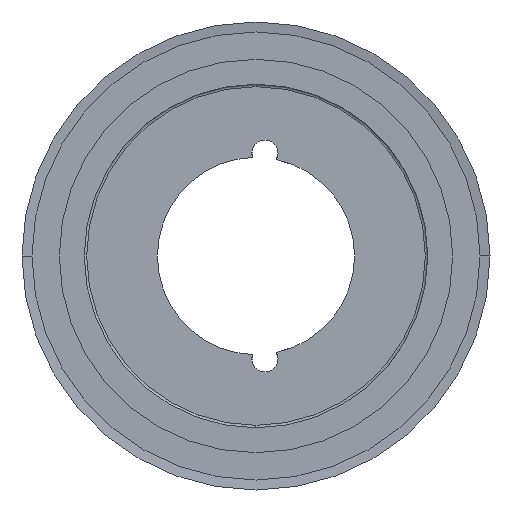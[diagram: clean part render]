
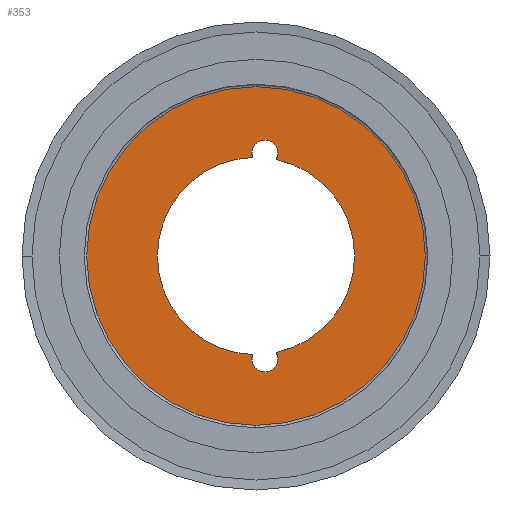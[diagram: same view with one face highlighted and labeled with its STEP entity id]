
A CAD part, left-side view. The second image highlights one B-rep face of the part: STEP entity #353.
In plain terms, the highlighted planar face has unit normal (-1, 0, 0).
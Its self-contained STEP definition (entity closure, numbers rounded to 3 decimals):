
#353 = ADVANCED_FACE( '', ( #922, #923 ), #924, .T. );
#922 = FACE_BOUND( '', #1502, .T. );
#923 = FACE_OUTER_BOUND( '', #1503, .T. );
#924 = PLANE( '', #1504 );
#1502 = EDGE_LOOP( '', ( #3959, #3960, #3961, #3962, #3963, #3964, #3965, #3966, #3967, #3968 ) );
#1503 = EDGE_LOOP( '', ( #3969, #3970, #3971 ) );
#1504 = AXIS2_PLACEMENT_3D( '', #3972, #3973, #3974 );
#3959 = ORIENTED_EDGE( '', *, *, #4113, .T. );
#3960 = ORIENTED_EDGE( '', *, *, #4112, .T. );
#3961 = ORIENTED_EDGE( '', *, *, #4107, .T. );
#3962 = ORIENTED_EDGE( '', *, *, #4115, .F. );
#3963 = ORIENTED_EDGE( '', *, *, #4104, .F. );
#3964 = ORIENTED_EDGE( '', *, *, #4091, .T. );
#3965 = ORIENTED_EDGE( '', *, *, #4120, .T. );
#3966 = ORIENTED_EDGE( '', *, *, #4095, .T. );
#3967 = ORIENTED_EDGE( '', *, *, #4097, .F. );
#3968 = ORIENTED_EDGE( '', *, *, #4119, .F. );
#3969 = ORIENTED_EDGE( '', *, *, #4853, .T. );
#3970 = ORIENTED_EDGE( '', *, *, #4055, .T. );
#3971 = ORIENTED_EDGE( '', *, *, #4854, .T. );
#3972 = CARTESIAN_POINT( '', ( 4.5, 53.802, 0. ) );
#3973 = DIRECTION( '', ( -1., 0., 0. ) );
#3974 = DIRECTION( '', ( 0., 1., 0. ) );
#4055 = EDGE_CURVE( '', #4895, #4901, #4903, .T. );
#4091 = EDGE_CURVE( '', #4967, #4964, #4968, .T. );
#4095 = EDGE_CURVE( '', #4971, #4973, #4975, .T. );
#4097 = EDGE_CURVE( '', #4976, #4973, #4979, .T. );
#4104 = EDGE_CURVE( '', #4967, #4983, #4990, .T. );
#4107 = EDGE_CURVE( '', #4991, #4994, #4996, .T. );
#4112 = EDGE_CURVE( '', #4998, #4991, #5005, .T. );
#4113 = EDGE_CURVE( '', #5006, #4998, #5007, .T. );
#4115 = EDGE_CURVE( '', #4983, #4994, #5009, .T. );
#4119 = EDGE_CURVE( '', #5006, #4976, #5013, .T. );
#4120 = EDGE_CURVE( '', #4964, #4971, #5014, .T. );
#4853 = EDGE_CURVE( '', #6227, #4895, #6228, .T. );
#4854 = EDGE_CURVE( '', #4901, #6227, #6229, .T. );
#4895 = VERTEX_POINT( '', #6277 );
#4901 = VERTEX_POINT( '', #6283 );
#4903 = CIRCLE( '', #6285, 68. );
#4964 = VERTEX_POINT( '', #6401 );
#4967 = VERTEX_POINT( '', #6405 );
#4968 = CIRCLE( '', #6406, 5.25 );
#4971 = VERTEX_POINT( '', #6418 );
#4973 = VERTEX_POINT( '', #6421 );
#4975 = CIRCLE( '', #6432, 5.25 );
#4976 = VERTEX_POINT( '', #6433 );
#4979 = CIRCLE( '', #6437, 39.603 );
#4983 = VERTEX_POINT( '', #6450 );
#4990 = CIRCLE( '', #6472, 39.603 );
#4991 = VERTEX_POINT( '', #6473 );
#4994 = VERTEX_POINT( '', #6477 );
#4996 = CIRCLE( '', #6488, 5.25 );
#4998 = VERTEX_POINT( '', #6490 );
#5005 = CIRCLE( '', #6516, 5.25 );
#5006 = VERTEX_POINT( '', #6517 );
#5007 = CIRCLE( '', #6518, 5.25 );
#5009 = CIRCLE( '', #6529, 39.603 );
#5013 = CIRCLE( '', #6566, 39.603 );
#5014 = CIRCLE( '', #6567, 5.25 );
#6227 = VERTEX_POINT( '', #8180 );
#6228 = CIRCLE( '', #8181, 68. );
#6229 = CIRCLE( '', #8182, 68. );
#6277 = CARTESIAN_POINT( '', ( 4.5, 0., -68. ) );
#6283 = CARTESIAN_POINT( '', ( 4.5, 0., 68. ) );
#6285 = AXIS2_PLACEMENT_3D( '', #8241, #8242, #8243 );
#6401 = CARTESIAN_POINT( '', ( 4.5, 1.653, 41.275 ) );
#6405 = CARTESIAN_POINT( '', ( 4.5, 1.371, 39.58 ) );
#6406 = AXIS2_PLACEMENT_3D( '', #8307, #8308, #8309 );
#6418 = CARTESIAN_POINT( '', ( 4.5, -8.847, 41.275 ) );
#6421 = CARTESIAN_POINT( '', ( 4.5, -8.198, 38.746 ) );
#6432 = AXIS2_PLACEMENT_3D( '', #8311, #8312, #8313 );
#6433 = CARTESIAN_POINT( '', ( 4.5, -39.603, 0. ) );
#6437 = AXIS2_PLACEMENT_3D( '', #8315, #8316, #8317 );
#6450 = CARTESIAN_POINT( '', ( 4.5, 39.603, 0. ) );
#6472 = AXIS2_PLACEMENT_3D( '', #8325, #8326, #8327 );
#6473 = CARTESIAN_POINT( '', ( 4.5, 1.653, -41.275 ) );
#6477 = CARTESIAN_POINT( '', ( 4.5, 1.371, -39.58 ) );
#6488 = AXIS2_PLACEMENT_3D( '', #8329, #8330, #8331 );
#6490 = CARTESIAN_POINT( '', ( 4.5, -8.847, -41.275 ) );
#6516 = AXIS2_PLACEMENT_3D( '', #8336, #8337, #8338 );
#6517 = CARTESIAN_POINT( '', ( 4.5, -8.198, -38.746 ) );
#6518 = AXIS2_PLACEMENT_3D( '', #8339, #8340, #8341 );
#6529 = AXIS2_PLACEMENT_3D( '', #8342, #8343, #8344 );
#6566 = AXIS2_PLACEMENT_3D( '', #8351, #8352, #8353 );
#6567 = AXIS2_PLACEMENT_3D( '', #8354, #8355, #8356 );
#8180 = CARTESIAN_POINT( '', ( 4.5, 68., 0. ) );
#8181 = AXIS2_PLACEMENT_3D( '', #9753, #9754, #9755 );
#8182 = AXIS2_PLACEMENT_3D( '', #9756, #9757, #9758 );
#8241 = CARTESIAN_POINT( '', ( 4.5, 0., 0. ) );
#8242 = DIRECTION( '', ( -1., 0., 0. ) );
#8243 = DIRECTION( '', ( 0., 1., 0. ) );
#8307 = CARTESIAN_POINT( '', ( 4.5, -3.597, 41.275 ) );
#8308 = DIRECTION( '', ( 1., 0., 0. ) );
#8309 = DIRECTION( '', ( 0., -1., 0. ) );
#8311 = CARTESIAN_POINT( '', ( 4.5, -3.597, 41.275 ) );
#8312 = DIRECTION( '', ( 1., 0., 0. ) );
#8313 = DIRECTION( '', ( 0., -1., 0. ) );
#8315 = CARTESIAN_POINT( '', ( 4.5, 0., 0. ) );
#8316 = DIRECTION( '', ( -1., 0., 0. ) );
#8317 = DIRECTION( '', ( 0., 1., 0. ) );
#8325 = CARTESIAN_POINT( '', ( 4.5, 0., 0. ) );
#8326 = DIRECTION( '', ( -1., 0., 0. ) );
#8327 = DIRECTION( '', ( 0., 1., 0. ) );
#8329 = CARTESIAN_POINT( '', ( 4.5, -3.597, -41.275 ) );
#8330 = DIRECTION( '', ( 1., 0., 0. ) );
#8331 = DIRECTION( '', ( 0., -1., 0. ) );
#8336 = CARTESIAN_POINT( '', ( 4.5, -3.597, -41.275 ) );
#8337 = DIRECTION( '', ( 1., 0., 0. ) );
#8338 = DIRECTION( '', ( 0., -1., 0. ) );
#8339 = CARTESIAN_POINT( '', ( 4.5, -3.597, -41.275 ) );
#8340 = DIRECTION( '', ( 1., 0., 0. ) );
#8341 = DIRECTION( '', ( 0., -1., 0. ) );
#8342 = CARTESIAN_POINT( '', ( 4.5, 0., 0. ) );
#8343 = DIRECTION( '', ( -1., 0., 0. ) );
#8344 = DIRECTION( '', ( 0., 1., 0. ) );
#8351 = CARTESIAN_POINT( '', ( 4.5, 0., 0. ) );
#8352 = DIRECTION( '', ( -1., 0., 0. ) );
#8353 = DIRECTION( '', ( 0., 1., 0. ) );
#8354 = CARTESIAN_POINT( '', ( 4.5, -3.597, 41.275 ) );
#8355 = DIRECTION( '', ( 1., 0., 0. ) );
#8356 = DIRECTION( '', ( 0., -1., 0. ) );
#9753 = CARTESIAN_POINT( '', ( 4.5, 0., 0. ) );
#9754 = DIRECTION( '', ( -1., 0., 0. ) );
#9755 = DIRECTION( '', ( 0., 1., 0. ) );
#9756 = CARTESIAN_POINT( '', ( 4.5, 0., 0. ) );
#9757 = DIRECTION( '', ( -1., 0., 0. ) );
#9758 = DIRECTION( '', ( 0., 1., 0. ) );
